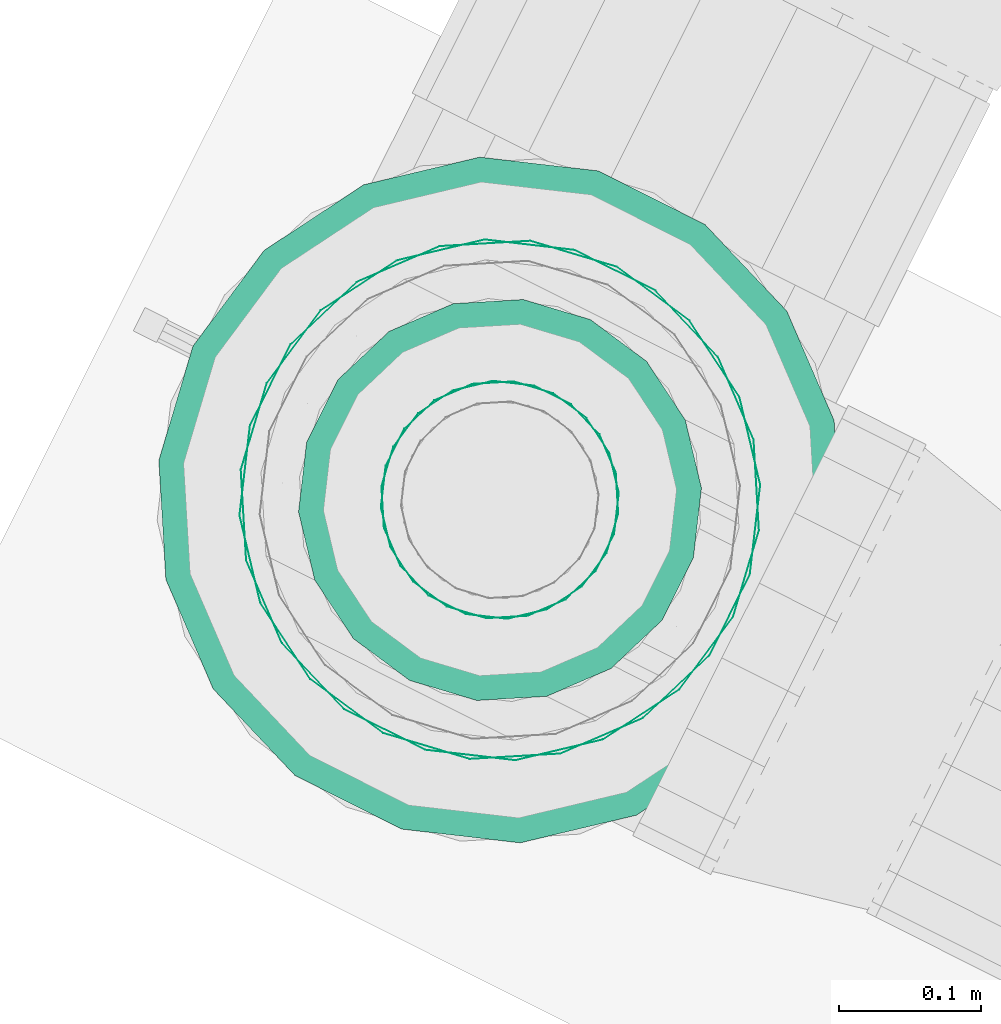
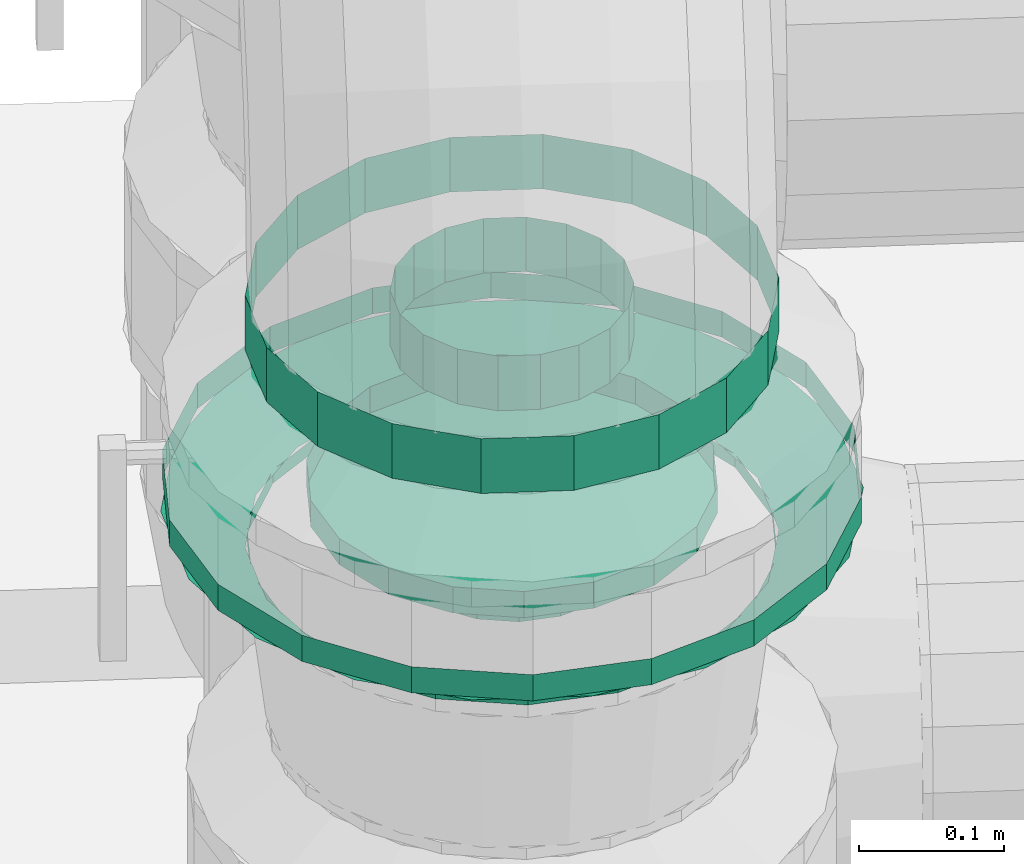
# One storey, part 100 of 152: 2 flow segments, 1 flow fitting.
"""IFC2X3 building model written with IfcOpenShell, lengths in metres."""

from ifc_helpers import new_model, si_unit, derived_unit, direction, frame, origin, place, context, subcontext, project, spatial, face_set, surface_model, source, transform, mapped, material, type_object, type_shapes, element, save


model = new_model("IFC2X3")

# Units and contexts
model_context = context("Model", 3, precision=5.2338327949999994e-05, world=origin(), true_north=direction((0.0, 1.0)))
body_context = subcontext(model_context, "Body", "Model", "MODEL_VIEW")
ifc_project = project(units=[si_unit("LENGTHUNIT", "METRE"), si_unit("AREAUNIT", "SQUARE_METRE"), si_unit("VOLUMEUNIT", "CUBIC_METRE"), si_unit("MASSUNIT", "GRAM", prefix="KILO"), si_unit("PLANEANGLEUNIT", "RADIAN"), derived_unit("THERMALTRANSMITTANCEUNIT", [(si_unit("MASSUNIT", "GRAM", prefix="KILO"), 1), (si_unit("THERMODYNAMICTEMPERATUREUNIT", "KELVIN"), -1), (si_unit("TIMEUNIT", "SECOND"), -3)])], contexts=[model_context])

# Site, building, storey
site_placement = place(None, frame((0.0, 0.0, 0.0), z_axis=(0.0, 0.0, 1.0), x_axis=(0.8939966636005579, -0.4480736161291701, 0.0)))
site = spatial("IfcSite", under=ifc_project, at=site_placement, Name="Default", CompositionType="ELEMENT")
building_placement = place(site_placement, origin())
building = spatial("IfcBuilding", under=site, at=building_placement, CompositionType="ELEMENT")
storey_placement = place(building_placement, frame((0.0, 0.0, 2.7499999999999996)))
storey = spatial("IfcBuildingStorey", under=building, at=storey_placement, Name="1. Obergeschoss", CompositionType="ELEMENT", Elevation=2.7499999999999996)

# Flow segment
ifc_material = material(Name="IfcSurfaceStyle #9317")
distribution_element_type_1 = type_object("IfcDistributionElementType", Name="Stahlrohr nach DIN 2448 237231:Stahlrohr nach DIN 2448 237231", material=ifc_material)
shared_shape_1 = source(origin(), body_context, "Body", "SurfaceModel", [
    surface_model("IfcFaceBasedSurfaceModel", [(9.625770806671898, 5.940937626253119, 4.47007198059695), (9.596989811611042, 5.9358627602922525, 4.47007198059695), (9.596989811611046, 5.9358627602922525, 4.481306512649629), (9.625770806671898, 5.940937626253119, 4.481306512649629), (9.571680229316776, 5.921250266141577, 4.47007198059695), (9.571680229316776, 5.921250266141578, 4.481306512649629), (9.552894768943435, 5.898862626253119, 4.47007198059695), (9.552894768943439, 5.898862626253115, 4.481306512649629), (9.54289923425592, 5.871400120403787, 4.47007198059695), (9.542899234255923, 5.871400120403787, 4.481306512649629), (9.542899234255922, 5.842175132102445, 4.47007198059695), (9.542899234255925, 5.842175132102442, 4.481306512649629), (9.552894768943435, 5.814712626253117, 4.47007198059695), (9.55289476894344, 5.814712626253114, 4.481306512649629), (9.571680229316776, 5.792324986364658, 4.47007198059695), (9.57168022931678, 5.792324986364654, 4.481306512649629), (9.59698981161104, 5.777712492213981, 4.47007198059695), (9.596989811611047, 5.77771249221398, 4.481306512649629), (9.625770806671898, 5.77263762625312, 4.47007198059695), (9.625770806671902, 5.772637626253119, 4.481306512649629), (9.654551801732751, 5.777712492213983, 4.47007198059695), (9.654551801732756, 5.777712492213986, 4.481306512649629), (9.679861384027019, 5.792324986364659, 4.47007198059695), (9.679861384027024, 5.792324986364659, 4.481306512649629), (9.69864684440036, 5.8147126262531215, 4.47007198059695), (9.698646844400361, 5.8147126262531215, 4.481306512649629), (9.708642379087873, 5.842175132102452, 4.47007198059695), (9.708642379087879, 5.842175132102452, 4.481306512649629), (9.708642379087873, 5.871400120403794, 4.47007198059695), (9.708642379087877, 5.8714001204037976, 4.481306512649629), (9.69864684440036, 5.898862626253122, 4.47007198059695), (9.69864684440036, 5.898862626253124, 4.481306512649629), (9.67986138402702, 5.921250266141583, 4.47007198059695), (9.679861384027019, 5.921250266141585, 4.481306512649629), (9.654551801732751, 5.935862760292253, 4.47007198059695), (9.654551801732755, 5.935862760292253, 4.481306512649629), (9.625770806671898, 6.04093762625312, 4.47007198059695), (9.562787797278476, 6.029832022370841, 4.47007198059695), (9.562787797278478, 6.029832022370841, 4.481306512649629), (9.625770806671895, 6.04093762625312, 4.481306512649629), (9.507401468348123, 5.997854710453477, 4.47007198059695), (9.507401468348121, 5.997854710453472, 4.481306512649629), (9.466292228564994, 5.948862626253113, 4.47007198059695), (9.466292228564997, 5.94886262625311, 4.481306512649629), (9.4444184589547, 5.888764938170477, 4.47007198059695), (9.444418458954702, 5.888764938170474, 4.481306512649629), (9.444418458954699, 5.824810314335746, 4.47007198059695), (9.444418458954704, 5.8248103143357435, 4.481306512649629), (9.466292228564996, 5.764712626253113, 4.47007198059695), (9.466292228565, 5.76471262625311, 4.481306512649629), (9.507401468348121, 5.715720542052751, 4.47007198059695), (9.507401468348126, 5.71572054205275, 4.481306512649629), (9.562787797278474, 5.6837432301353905, 4.47007198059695), (9.562787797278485, 5.683743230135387, 4.481306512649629), (9.625770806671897, 5.672637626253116, 4.47007198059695), (9.625770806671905, 5.672637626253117, 4.481306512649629), (9.688753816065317, 5.683743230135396, 4.47007198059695), (9.688753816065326, 5.683743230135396, 4.481306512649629), (9.744140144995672, 5.715720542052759, 4.47007198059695), (9.744140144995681, 5.715720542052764, 4.481306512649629), (9.785249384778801, 5.764712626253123, 4.47007198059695), (9.785249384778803, 5.764712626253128, 4.481306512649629), (9.80712315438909, 5.824810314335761, 4.47007198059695), (9.807123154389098, 5.824810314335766, 4.481306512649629), (9.807123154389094, 5.888764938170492, 4.47007198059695), (9.807123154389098, 5.888764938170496, 4.481306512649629), (9.785249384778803, 5.948862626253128, 4.47007198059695), (9.785249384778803, 5.948862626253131, 4.481306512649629), (9.744140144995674, 5.997854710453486, 4.47007198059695), (9.744140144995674, 5.997854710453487, 4.481306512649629), (9.688753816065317, 6.029832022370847, 4.47007198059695), (9.688753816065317, 6.02983202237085, 4.481306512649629)], [face_set([[[0, 1, 2, 3]], [[1, 4, 5, 2]], [[4, 6, 7, 5]], [[6, 8, 9, 7]], [[8, 10, 11, 9]], [[10, 12, 13, 11]], [[12, 14, 15, 13]], [[14, 16, 17, 15]], [[16, 18, 19, 17]], [[18, 20, 21, 19]], [[20, 22, 23, 21]], [[22, 24, 25, 23]], [[24, 26, 27, 25]], [[26, 28, 29, 27]], [[28, 30, 31, 29]], [[30, 32, 33, 31]], [[32, 34, 35, 33]], [[34, 0, 3, 35]], [[36, 37, 38, 39]], [[37, 40, 41, 38]], [[40, 42, 43, 41]], [[42, 44, 45, 43]], [[44, 46, 47, 45]], [[46, 48, 49, 47]], [[48, 50, 51, 49]], [[50, 52, 53, 51]], [[52, 54, 55, 53]], [[54, 56, 57, 55]], [[56, 58, 59, 57]], [[58, 60, 61, 59]], [[60, 62, 63, 61]], [[62, 64, 65, 63]], [[64, 66, 67, 65]], [[66, 68, 69, 67]], [[68, 70, 71, 69]], [[70, 36, 39, 71]]])]),
])
type_shapes(distribution_element_type_1, [shared_shape_1])
flow_segment_1_placement = place(storey_placement, frame((0.0, 0.0, -2.7499999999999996)))
element("IfcFlowSegment", 1, at=flow_segment_1_placement, inside=storey, type_object=distribution_element_type_1, material=ifc_material, Name="Stahlrohr nach DIN 2448", ObjectType="Stahlrohr nach DIN 2448", context=body_context, shape_type="MappedRepresentation", body=[
    mapped(shared_shape_1, transform((0.0, 0.0, 0.0), scale=1.0)),
])

# Flow fitting
distribution_element_type_2 = type_object("IfcDistributionElementType", Name="Flansch 237254:Flansch 237254", material=ifc_material)
shared_shape_2 = source(origin(), body_context, "Body", "SurfaceModel", [
    surface_model("IfcFaceBasedSurfaceModel", [(9.7099208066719, 5.856787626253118, 4.481306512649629), (9.704845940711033, 5.8855686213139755, 4.481306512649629), (9.712222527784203, 5.888253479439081, 4.514306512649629), (9.717770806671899, 5.856787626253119, 4.51430651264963), (9.690233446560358, 5.910878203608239, 4.481306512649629), (9.696246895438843, 5.91592408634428, 4.514306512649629), (9.667845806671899, 5.929663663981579, 4.481306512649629), (9.6717708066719, 5.936461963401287, 4.51430651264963), (9.64038330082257, 5.939659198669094, 4.481306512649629), (9.641746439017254, 5.9473899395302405, 4.51430651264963), (9.611158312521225, 5.939659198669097, 4.481306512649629), (9.60979517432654, 5.947389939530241, 4.514306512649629), (9.583695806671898, 5.92966366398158, 4.4813065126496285), (9.579770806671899, 5.936461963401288, 4.514306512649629), (9.561308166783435, 5.910878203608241, 4.481306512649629), (9.555294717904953, 5.915924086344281, 4.514306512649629), (9.546695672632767, 5.885568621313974, 4.481306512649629), (9.539319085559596, 5.888253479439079, 4.51430651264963), (9.541620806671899, 5.856787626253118, 4.481306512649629), (9.533770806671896, 5.856787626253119, 4.514306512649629), (9.546695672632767, 5.828006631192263, 4.481306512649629), (9.539319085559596, 5.825321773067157, 4.514306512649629), (9.561308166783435, 5.802697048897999, 4.481306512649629), (9.555294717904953, 5.797651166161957, 4.51430651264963), (9.5836958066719, 5.783911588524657, 4.481306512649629), (9.5797708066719, 5.77711328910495, 4.51430651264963), (9.61115831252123, 5.773916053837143, 4.481306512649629), (9.60979517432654, 5.766185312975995, 4.51430651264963), (9.64038330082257, 5.773916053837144, 4.481306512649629), (9.641746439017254, 5.766185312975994, 4.51430651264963), (9.667845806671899, 5.783911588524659, 4.481306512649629), (9.671770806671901, 5.77711328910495, 4.51430651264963), (9.69023344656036, 5.802697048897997, 4.481306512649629), (9.696246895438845, 5.797651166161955, 4.51430651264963), (9.704845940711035, 5.828006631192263, 4.481306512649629), (9.712222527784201, 5.825321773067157, 4.514306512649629), (9.625770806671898, 5.714287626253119, 4.514306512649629), (9.67450867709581, 5.722881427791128, 4.514306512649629), (9.674508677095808, 5.722881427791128, 4.536306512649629), (9.6257708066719, 5.714287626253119, 4.536306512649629), (9.717368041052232, 5.747626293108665, 4.51430651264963), (9.717368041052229, 5.747626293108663, 4.536306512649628), (9.749179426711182, 5.785537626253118, 4.51430651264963), (9.749179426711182, 5.785537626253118, 4.536306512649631), (9.766105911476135, 5.832042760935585, 4.514306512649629), (9.76610591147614, 5.832042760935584, 4.536306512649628), (9.766105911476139, 5.881532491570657, 4.514306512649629), (9.766105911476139, 5.881532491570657, 4.53630651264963), (9.749179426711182, 5.928037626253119, 4.51430651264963), (9.749179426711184, 5.9280376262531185, 4.536306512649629), (9.717368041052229, 5.965948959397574, 4.514306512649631), (9.717368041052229, 5.965948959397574, 4.536306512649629), (9.674508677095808, 5.990693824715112, 4.51430651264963), (9.674508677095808, 5.990693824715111, 4.53630651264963), (9.6257708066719, 5.999287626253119, 4.51430651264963), (9.625770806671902, 5.9992876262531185, 4.536306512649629), (9.577032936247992, 5.990693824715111, 4.514306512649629), (9.577032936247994, 5.990693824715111, 4.536306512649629), (9.534173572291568, 5.965948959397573, 4.514306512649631), (9.53417357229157, 5.965948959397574, 4.536306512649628), (9.502362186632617, 5.928037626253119, 4.51430651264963), (9.502362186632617, 5.9280376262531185, 4.53630651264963), (9.48543570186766, 5.881532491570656, 4.51430651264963), (9.48543570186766, 5.881532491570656, 4.536306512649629), (9.485435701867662, 5.832042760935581, 4.514306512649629), (9.485435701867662, 5.832042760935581, 4.53630651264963), (9.502362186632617, 5.785537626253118, 4.51430651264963), (9.502362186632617, 5.785537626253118, 4.53630651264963), (9.534173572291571, 5.747626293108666, 4.51430651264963), (9.534173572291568, 5.747626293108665, 4.536306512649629), (9.577032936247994, 5.722881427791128, 4.514306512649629), (9.577032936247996, 5.722881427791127, 4.536306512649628), (9.625770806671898, 5.856787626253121, 4.514306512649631), (9.8099208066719, 5.856787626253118, 4.48130651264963), (9.798815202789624, 5.919770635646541, 4.48130651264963), (9.853646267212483, 5.939727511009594, 4.51430651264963), (9.868270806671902, 5.856787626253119, 4.51430651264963), (9.766837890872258, 5.975156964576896, 4.481306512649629), (9.811536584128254, 6.012663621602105, 4.514306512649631), (9.7178458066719, 6.016266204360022, 4.481306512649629), (9.747020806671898, 6.066798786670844, 4.514306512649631), (9.657748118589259, 6.038139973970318, 4.481306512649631), (9.667880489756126, 6.095603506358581, 4.514306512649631), (9.593793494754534, 6.038139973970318, 4.481306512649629), (9.583661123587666, 6.095603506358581, 4.51430651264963), (9.533695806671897, 6.016266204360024, 4.4813065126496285), (9.504520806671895, 6.066798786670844, 4.51430651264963), (9.484703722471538, 5.975156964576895, 4.481306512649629), (9.440005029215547, 6.012663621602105, 4.51430651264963), (9.452726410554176, 5.91977063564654, 4.48130651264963), (9.397895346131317, 5.939727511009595, 4.51430651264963), (9.4416208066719, 5.856787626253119, 4.481306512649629), (9.3832708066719, 5.856787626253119, 4.514306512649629), (9.452726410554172, 5.793804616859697, 4.481306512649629), (9.397895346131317, 5.773847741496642, 4.514306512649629), (9.484703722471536, 5.738418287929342, 4.481306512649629), (9.440005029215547, 5.700911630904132, 4.51430651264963), (9.533695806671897, 5.697309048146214, 4.4813065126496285), (9.504520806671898, 5.646776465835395, 4.514306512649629), (9.593793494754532, 5.67543527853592, 4.481306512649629), (9.583661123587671, 5.617971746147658, 4.51430651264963), (9.657748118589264, 5.67543527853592, 4.481306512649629), (9.667880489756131, 5.617971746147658, 4.51430651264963), (9.7178458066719, 5.697309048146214, 4.4813065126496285), (9.7470208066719, 5.646776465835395, 4.514306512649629), (9.766837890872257, 5.738418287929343, 4.48130651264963), (9.811536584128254, 5.700911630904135, 4.514306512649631), (9.798815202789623, 5.793804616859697, 4.4813065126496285), (9.853646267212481, 5.773847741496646, 4.514306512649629), (9.625770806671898, 5.614287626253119, 4.514306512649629), (9.708710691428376, 5.628912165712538, 4.514306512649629), (9.708710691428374, 5.628912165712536, 4.536306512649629), (9.625770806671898, 5.614287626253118, 4.536306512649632), (9.781646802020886, 5.671021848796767, 4.514306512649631), (9.781646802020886, 5.671021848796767, 4.536306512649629), (9.835781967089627, 5.735537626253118, 4.514306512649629), (9.835781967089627, 5.735537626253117, 4.536306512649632), (9.864586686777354, 5.814677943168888, 4.514306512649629), (9.864586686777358, 5.814677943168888, 4.536306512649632), (9.86458668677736, 5.898897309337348, 4.514306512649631), (9.86458668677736, 5.8988973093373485, 4.536306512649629), (9.835781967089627, 5.978037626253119, 4.51430651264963), (9.835781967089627, 5.978037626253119, 4.536306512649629), (9.781646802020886, 6.042553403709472, 4.514306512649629), (9.781646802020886, 6.042553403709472, 4.53630651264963), (9.708710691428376, 6.084663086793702, 4.514306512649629), (9.708710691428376, 6.084663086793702, 4.53630651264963), (9.6257708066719, 6.09928762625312, 4.514306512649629), (9.6257708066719, 6.09928762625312, 4.53630651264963), (9.542830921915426, 6.084663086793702, 4.514306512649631), (9.542830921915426, 6.084663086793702, 4.536306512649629), (9.469894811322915, 6.042553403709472, 4.51430651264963), (9.469894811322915, 6.042553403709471, 4.536306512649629), (9.415759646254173, 5.978037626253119, 4.514306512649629), (9.415759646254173, 5.978037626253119, 4.53630651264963), (9.386954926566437, 5.898897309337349, 4.514306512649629), (9.386954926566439, 5.8988973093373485, 4.536306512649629), (9.38695492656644, 5.814677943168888, 4.51430651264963), (9.386954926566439, 5.814677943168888, 4.536306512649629), (9.415759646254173, 5.7355376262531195, 4.51430651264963), (9.415759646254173, 5.7355376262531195, 4.53630651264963), (9.469894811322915, 5.671021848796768, 4.514306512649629), (9.469894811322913, 5.671021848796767, 4.536306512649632), (9.542830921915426, 5.628912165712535, 4.51430651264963), (9.542830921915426, 5.628912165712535, 4.536306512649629)], [face_set([[[0, 1, 2, 3]], [[1, 4, 5, 2]], [[4, 6, 7, 5]], [[6, 8, 9, 7]], [[8, 10, 11, 9]], [[10, 12, 13, 11]], [[12, 14, 15, 13]], [[14, 16, 17, 15]], [[16, 18, 19, 17]], [[18, 20, 21, 19]], [[20, 22, 23, 21]], [[22, 24, 25, 23]], [[24, 26, 27, 25]], [[26, 28, 29, 27]], [[28, 30, 31, 29]], [[30, 32, 33, 31]], [[32, 34, 35, 33]], [[34, 0, 3, 35]], [[36, 37, 38, 39]], [[37, 40, 41, 38]], [[40, 42, 43, 41]], [[42, 44, 45, 43]], [[44, 46, 47, 45]], [[46, 48, 49, 47]], [[48, 50, 51, 49]], [[50, 52, 53, 51]], [[52, 54, 55, 53]], [[54, 56, 57, 55]], [[56, 58, 59, 57]], [[58, 60, 61, 59]], [[60, 62, 63, 61]], [[62, 64, 65, 63]], [[64, 66, 67, 65]], [[66, 68, 69, 67]], [[68, 70, 71, 69]], [[70, 36, 39, 71]], [[72, 37, 36]], [[72, 40, 37]], [[72, 42, 40]], [[72, 44, 42]], [[72, 46, 44]], [[72, 48, 46]], [[72, 50, 48]], [[72, 52, 50]], [[72, 54, 52]], [[72, 56, 54]], [[72, 58, 56]], [[72, 60, 58]], [[72, 62, 60]], [[72, 64, 62]], [[72, 66, 64]], [[72, 68, 66]], [[72, 70, 68]], [[72, 36, 70]], [[73, 74, 75, 76]], [[74, 77, 78, 75]], [[77, 79, 80, 78]], [[79, 81, 82, 80]], [[81, 83, 84, 82]], [[83, 85, 86, 84]], [[85, 87, 88, 86]], [[87, 89, 90, 88]], [[89, 91, 92, 90]], [[91, 93, 94, 92]], [[93, 95, 96, 94]], [[95, 97, 98, 96]], [[97, 99, 100, 98]], [[99, 101, 102, 100]], [[101, 103, 104, 102]], [[103, 105, 106, 104]], [[105, 107, 108, 106]], [[107, 73, 76, 108]], [[109, 110, 111, 112]], [[110, 113, 114, 111]], [[113, 115, 116, 114]], [[115, 117, 118, 116]], [[117, 119, 120, 118]], [[119, 121, 122, 120]], [[121, 123, 124, 122]], [[123, 125, 126, 124]], [[125, 127, 128, 126]], [[127, 129, 130, 128]], [[129, 131, 132, 130]], [[131, 133, 134, 132]], [[133, 135, 136, 134]], [[135, 137, 138, 136]], [[137, 139, 140, 138]], [[139, 141, 142, 140]], [[141, 143, 144, 142]], [[143, 109, 112, 144]]])]),
])
type_shapes(distribution_element_type_2, [shared_shape_2])
flow_fitting_placement = place(storey_placement, frame((0.0, 0.0, -2.7499999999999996)))
element("IfcFlowFitting", 2, at=flow_fitting_placement, inside=storey, type_object=distribution_element_type_2, material=ifc_material, Name="Flansch", ObjectType="Flansch", context=body_context, shape_type="MappedRepresentation", body=[
    mapped(shared_shape_2, transform((0.0, 0.0, 0.0), scale=1.0)),
])

# Flow segment
distribution_element_type_3 = type_object("IfcDistributionElementType", Name="Stahlrohr nach DIN 2448 237277:Stahlrohr nach DIN 2448 237277", material=ifc_material)
shared_shape_3 = source(origin(), body_context, "Body", "SurfaceModel", [
    surface_model("IfcFaceBasedSurfaceModel", [(9.709920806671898, 5.856787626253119, 4.69330651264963), (9.704845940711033, 5.828006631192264, 4.69330651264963), (9.704845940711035, 5.828006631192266, 4.64730651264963), (9.709920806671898, 5.856787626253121, 4.64730651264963), (9.690233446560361, 5.802697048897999, 4.69330651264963), (9.690233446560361, 5.802697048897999, 4.64730651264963), (9.667845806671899, 5.783911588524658, 4.69330651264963), (9.667845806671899, 5.783911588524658, 4.64730651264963), (9.64038330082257, 5.773916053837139, 4.69330651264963), (9.640383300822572, 5.773916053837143, 4.64730651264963), (9.611158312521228, 5.7739160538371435, 4.69330651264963), (9.61115831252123, 5.773916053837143, 4.64730651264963), (9.583695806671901, 5.783911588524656, 4.69330651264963), (9.5836958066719, 5.783911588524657, 4.64730651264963), (9.561308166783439, 5.802697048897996, 4.69330651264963), (9.561308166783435, 5.802697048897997, 4.64730651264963), (9.546695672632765, 5.828006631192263, 4.69330651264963), (9.546695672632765, 5.828006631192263, 4.64730651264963), (9.541620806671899, 5.856787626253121, 4.693306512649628), (9.541620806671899, 5.856787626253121, 4.647306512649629), (9.546695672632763, 5.8855686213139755, 4.69330651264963), (9.546695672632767, 5.885568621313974, 4.647306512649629), (9.561308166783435, 5.9108782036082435, 4.69330651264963), (9.561308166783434, 5.910878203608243, 4.64730651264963), (9.583695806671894, 5.929663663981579, 4.69330651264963), (9.583695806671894, 5.929663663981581, 4.64730651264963), (9.611158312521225, 5.939659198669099, 4.69330651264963), (9.611158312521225, 5.939659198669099, 4.64730651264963), (9.640383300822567, 5.939659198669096, 4.69330651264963), (9.640383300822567, 5.939659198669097, 4.64730651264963), (9.667845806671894, 5.929663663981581, 4.69330651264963), (9.667845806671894, 5.929663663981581, 4.64730651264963), (9.690233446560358, 5.910878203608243, 4.69330651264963), (9.690233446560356, 5.9108782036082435, 4.64730651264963), (9.704845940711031, 5.8855686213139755, 4.69330651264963), (9.70484594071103, 5.885568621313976, 4.64730651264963), (9.809920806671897, 5.856787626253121, 4.69330651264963), (9.798815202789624, 5.793804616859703, 4.69330651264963), (9.798815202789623, 5.793804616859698, 4.64730651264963), (9.809920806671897, 5.856787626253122, 4.64730651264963), (9.766837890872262, 5.738418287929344, 4.69330651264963), (9.766837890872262, 5.738418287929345, 4.64730651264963), (9.7178458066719, 5.697309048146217, 4.69330651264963), (9.717845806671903, 5.697309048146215, 4.64730651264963), (9.65774811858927, 5.675435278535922, 4.69330651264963), (9.65774811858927, 5.675435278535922, 4.64730651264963), (9.593793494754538, 5.675435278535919, 4.69330651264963), (9.593793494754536, 5.675435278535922, 4.64730651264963), (9.533695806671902, 5.697309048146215, 4.69330651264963), (9.533695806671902, 5.697309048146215, 4.64730651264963), (9.484703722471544, 5.738418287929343, 4.69330651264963), (9.484703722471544, 5.738418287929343, 4.64730651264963), (9.452726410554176, 5.793804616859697, 4.69330651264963), (9.452726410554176, 5.793804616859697, 4.64730651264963), (9.441620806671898, 5.856787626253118, 4.69330651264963), (9.4416208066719, 5.856787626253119, 4.64730651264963), (9.452726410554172, 5.91977063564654, 4.69330651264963), (9.452726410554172, 5.919770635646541, 4.64730651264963), (9.484703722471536, 5.975156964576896, 4.69330651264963), (9.484703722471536, 5.975156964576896, 4.64730651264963), (9.533695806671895, 6.016266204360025, 4.69330651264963), (9.533695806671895, 6.016266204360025, 4.64730651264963), (9.59379349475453, 6.038139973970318, 4.69330651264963), (9.593793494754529, 6.0381399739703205, 4.64730651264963), (9.657748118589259, 6.0381399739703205, 4.69330651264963), (9.657748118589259, 6.0381399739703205, 4.64730651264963), (9.717845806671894, 6.016266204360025, 4.69330651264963), (9.717845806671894, 6.016266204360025, 4.64730651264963), (9.766837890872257, 5.975156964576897, 4.69330651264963), (9.766837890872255, 5.975156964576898, 4.64730651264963), (9.798815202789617, 5.919770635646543, 4.69330651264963), (9.798815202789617, 5.919770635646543, 4.64730651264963)], [face_set([[[0, 1, 2, 3]], [[1, 4, 5, 2]], [[4, 6, 7, 5]], [[6, 8, 9, 7]], [[8, 10, 11, 9]], [[10, 12, 13, 11]], [[12, 14, 15, 13]], [[14, 16, 17, 15]], [[16, 18, 19, 17]], [[18, 20, 21, 19]], [[20, 22, 23, 21]], [[22, 24, 25, 23]], [[24, 26, 27, 25]], [[26, 28, 29, 27]], [[28, 30, 31, 29]], [[30, 32, 33, 31]], [[32, 34, 35, 33]], [[34, 0, 3, 35]], [[36, 37, 38, 39]], [[37, 40, 41, 38]], [[40, 42, 43, 41]], [[42, 44, 45, 43]], [[44, 46, 47, 45]], [[46, 48, 49, 47]], [[48, 50, 51, 49]], [[50, 52, 53, 51]], [[52, 54, 55, 53]], [[54, 56, 57, 55]], [[56, 58, 59, 57]], [[58, 60, 61, 59]], [[60, 62, 63, 61]], [[62, 64, 65, 63]], [[64, 66, 67, 65]], [[66, 68, 69, 67]], [[68, 70, 71, 69]], [[70, 36, 39, 71]]])]),
])
type_shapes(distribution_element_type_3, [shared_shape_3])
flow_segment_2_placement = place(storey_placement, frame((0.0, 0.0, -2.7499999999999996)))
element("IfcFlowSegment", 3, at=flow_segment_2_placement, inside=storey, type_object=distribution_element_type_3, material=ifc_material, Name="Stahlrohr nach DIN 2448", ObjectType="Stahlrohr nach DIN 2448", context=body_context, shape_type="MappedRepresentation", body=[
    mapped(shared_shape_3, transform((0.0, 0.0, 0.0), scale=1.0)),
])

save(model, "model.ifc")
